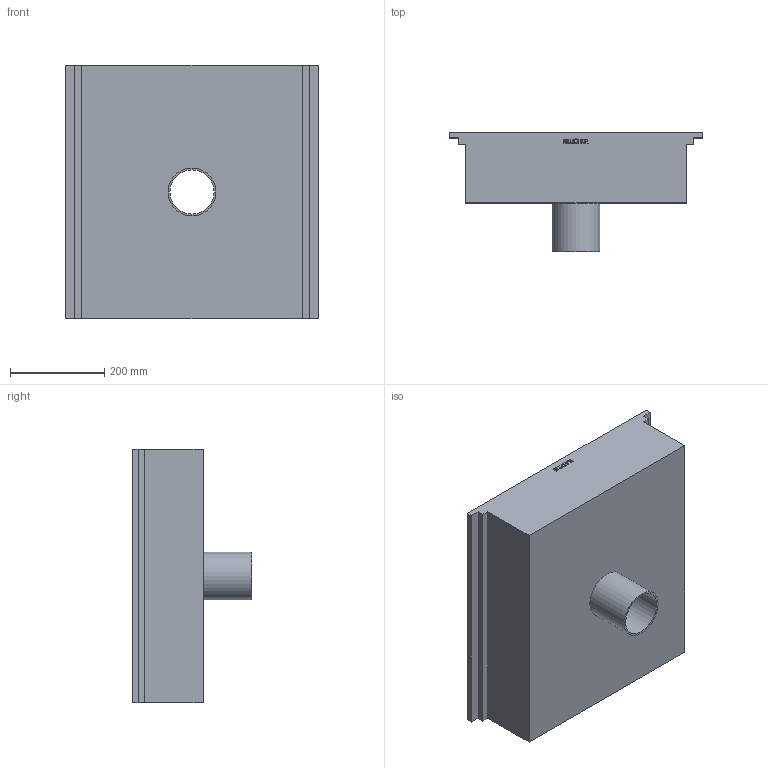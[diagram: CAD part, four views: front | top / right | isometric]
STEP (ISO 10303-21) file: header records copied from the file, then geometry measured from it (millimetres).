
FILE_DESCRIPTION((''),'2;1');
FILE_NAME('I:\WATTS\3D_CAD\3D_CAD_Models\Blucher_Drains\BKC_KitchenChannels\BKC-300\WebsiteFiles\3D\STEP\BKC-304-6.stp','2009-11-30T09:08:20',('menesek'),(''),'Autodesk Inventor 2010','Autodesk Inventor 2010','');
FILE_SCHEMA(('AUTOMOTIVE_DESIGN { 1 0 10303 214 1 1 1 1 }'));
Length unit declared in the file: inch
Products named in the file (1): BKC-304-6
Bounding box: 537 x 253 x 537 mm (x, y, z)
Volume: 4758005.2 mm3; surface area: 1211585.6 mm2
Topology: 1 solids, 1 shells, 142 faces, 385 edges, 257 vertices
Faces by surface type: plane 95, bspline 45, cylinder 2
Full cylindrical faces by diameter (mm): 93.6 x1, 101.6 x1
Entity records: 4799 total; most frequent: CARTESIAN_POINT 1501, ORIENTED_EDGE 764, DIRECTION 492, EDGE_CURVE 382, VECTOR 288, LINE 288, VERTEX_POINT 256, EDGE_LOOP 158
